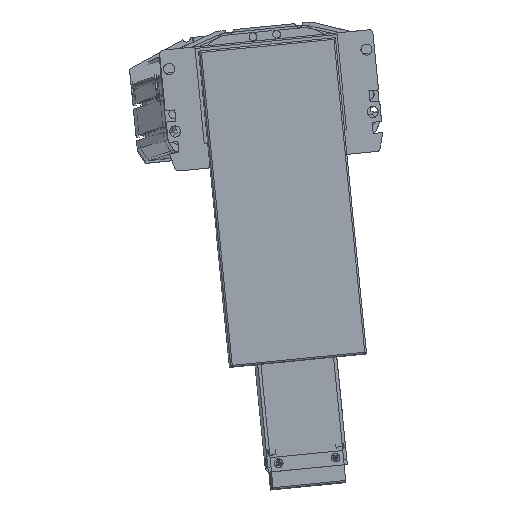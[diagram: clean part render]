
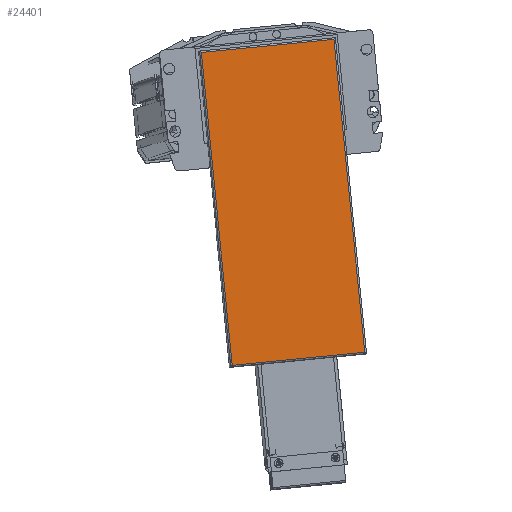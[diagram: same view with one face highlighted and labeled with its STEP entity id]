
A CAD part, top view. The second image highlights one B-rep face of the part: STEP entity #24401.
In plain terms, the highlighted planar face has unit normal (0.017, 0.003, 1) as drawn and (0, 0, 1) by its records, which use the part's own axes.
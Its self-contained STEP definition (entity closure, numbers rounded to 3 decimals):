
#24373 = VERTEX_POINT ( 'NONE', #43548 ) ;
#24381 = EDGE_LOOP ( 'NONE', ( #24406, #24410, #24402, #24399 ) ) ;
#24385 = VERTEX_POINT ( 'NONE', #43584 ) ;
#24389 = EDGE_CURVE ( 'NONE', #25259, #24385, #43614, .T. ) ;
#24391 = EDGE_CURVE ( 'NONE', #24385, #24373, #43613, .T. ) ;
#24399 = ORIENTED_EDGE ( 'NONE', *, *, #24389, .T. ) ;
#24401 = ADVANCED_FACE ( 'NONE', ( #43635 ), #43639, .T. ) ;
#24402 = ORIENTED_EDGE ( 'NONE', *, *, #25245, .T. ) ;
#24406 = ORIENTED_EDGE ( 'NONE', *, *, #24391, .T. ) ;
#24410 = ORIENTED_EDGE ( 'NONE', *, *, #24425, .T. ) ;
#24425 = EDGE_CURVE ( 'NONE', #24373, #25292, #43661, .T. ) ;
#25245 = EDGE_CURVE ( 'NONE', #25292, #25259, #44995, .T. ) ;
#25259 = VERTEX_POINT ( 'NONE', #45043 ) ;
#25292 = VERTEX_POINT ( 'NONE', #45095 ) ;
#43548 = CARTESIAN_POINT ( 'NONE',  ( 41.95, -125.25, 44. ) ) ;
#43584 = CARTESIAN_POINT ( 'NONE',  ( -41.95, -125.25, 44. ) ) ;
#43600 = AXIS2_PLACEMENT_3D ( 'NONE', #43637, #43634, #43631 ) ;
#43601 = DIRECTION ( 'NONE',  ( 1., 0., 0. ) ) ;
#43602 = VECTOR ( 'NONE', #43601, 1000. ) ;
#43603 = CARTESIAN_POINT ( 'NONE',  ( -42.95, -125.25, 44. ) ) ;
#43605 = DIRECTION ( 'NONE',  ( 0., -1., 0. ) ) ;
#43606 = VECTOR ( 'NONE', #43605, 1000. ) ;
#43607 = CARTESIAN_POINT ( 'NONE',  ( -41.95, -126.25, 44. ) ) ;
#43613 = LINE ( 'NONE', #43603, #43602 ) ;
#43614 = LINE ( 'NONE', #43607, #43606 ) ;
#43631 = DIRECTION ( 'NONE',  ( 1., 0., 0. ) ) ;
#43634 = DIRECTION ( 'NONE',  ( 0., 0., 1. ) ) ;
#43635 = FACE_OUTER_BOUND ( 'NONE', #24381, .T. ) ;
#43637 = CARTESIAN_POINT ( 'NONE',  ( -42.95, -126.25, 44. ) ) ;
#43639 = PLANE ( 'NONE',  #43600 ) ;
#43653 = DIRECTION ( 'NONE',  ( 0., 1., 0. ) ) ;
#43654 = VECTOR ( 'NONE', #43653, 1000. ) ;
#43655 = CARTESIAN_POINT ( 'NONE',  ( 41.95, -126.25, 44. ) ) ;
#43661 = LINE ( 'NONE', #43655, #43654 ) ;
#44990 = DIRECTION ( 'NONE',  ( -1., 0., 0. ) ) ;
#44991 = VECTOR ( 'NONE', #44990, 1000. ) ;
#44992 = CARTESIAN_POINT ( 'NONE',  ( -42.95, 72.75, 44. ) ) ;
#44995 = LINE ( 'NONE', #44992, #44991 ) ;
#45043 = CARTESIAN_POINT ( 'NONE',  ( -41.95, 72.75, 44. ) ) ;
#45095 = CARTESIAN_POINT ( 'NONE',  ( 41.95, 72.75, 44. ) ) ;
